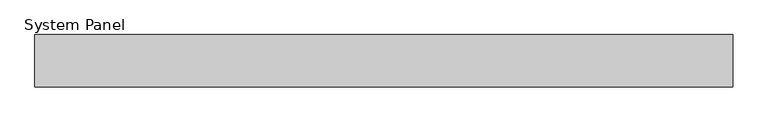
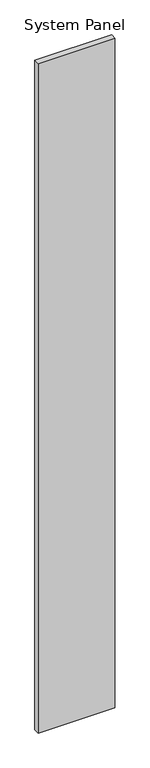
"""IFC4 building model written with IfcOpenShell, lengths in millimetres: plate geometry, System Panel : SolarSpan 75mm Roof - Plain Surfmist."""

from ifc_helpers import new_model, si_unit, origin, origin_with_axes, place, context, project, spatial, polyline, outline, extrude, source, transform, mapped, element, save


def system_panel_1af4c5d8(model_context):
    return source(origin(), model_context, "Body", "SweptSolid", [
        extrude(outline(polyline([(500.0, -75.0), (-500.0, -75.0), (-500.0, 0.0), (500.0, 0.0), (500.0, -75.0)])), origin_with_axes(), (0.0, 0.0, 1.0), 9240.3821682),
    ])


if __name__ == "__main__":
    model = new_model("IFC4")
    model_context = context("Model", 3, world=origin())
    ifc_project = project(units=[si_unit("LENGTHUNIT", "METRE", prefix="MILLI")], contexts=[model_context])
    site = spatial("IfcSite", under=ifc_project)
    building = spatial("IfcBuilding", under=site)
    placement = place(None, origin())
    system_panel_shape = system_panel_1af4c5d8(model_context)
    element("IfcPlate", 1, ObjectType="System Panel : SolarSpan 75mm Roof - Plain Surfmist", at=placement, inside=building, context=model_context, shape_type="MappedRepresentation", body=[
        mapped(system_panel_shape, transform((0.0, 0.0, 0.0), x_axis=(1.0, 0.0, 0.0), y_axis=(0.0, 1.0, 0.0), z_axis=(0.0, 0.0, 1.0))),
    ])
    save(model, "model.ifc")
